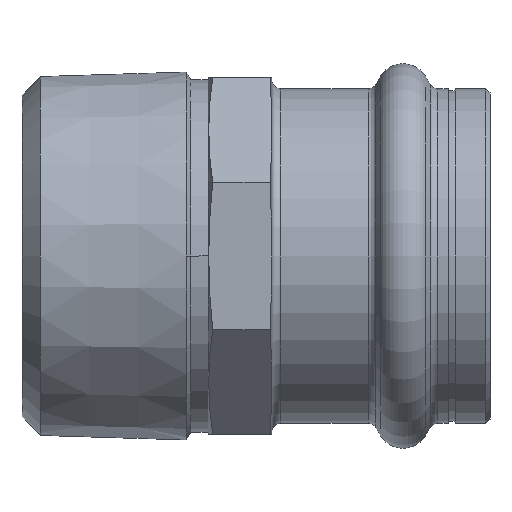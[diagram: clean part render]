
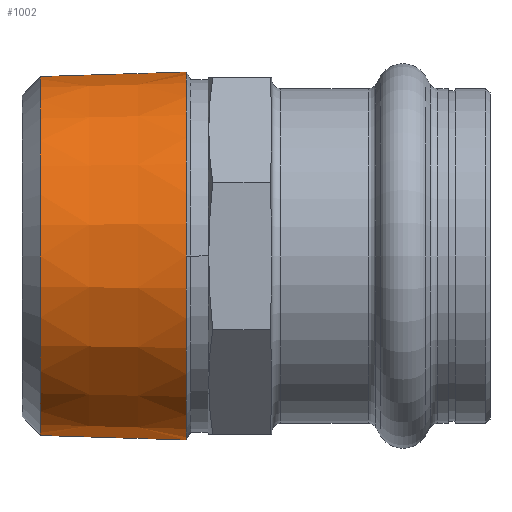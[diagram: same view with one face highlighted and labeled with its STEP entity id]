
A CAD part, left-side view. The second image highlights one B-rep face of the part: STEP entity #1002.
In plain terms, the highlighted conical face has half-angle 1.78 degrees and reference radius 21.225 mm.
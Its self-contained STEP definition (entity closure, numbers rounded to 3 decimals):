
#30 = CIRCLE ( 'NONE', #1326, 20.626 ) ;
#108 = CIRCLE ( 'NONE', #1827, 21.147 ) ;
#238 = EDGE_CURVE ( 'NONE', #1780, #1606, #716, .T. ) ;
#260 = AXIS2_PLACEMENT_3D ( 'NONE', #1369, #1372, #1349 ) ;
#323 = VECTOR ( 'NONE', #1933, 1000. ) ;
#363 = VERTEX_POINT ( 'NONE', #1098 ) ;
#393 = EDGE_CURVE ( 'NONE', #1587, #363, #108, .T. ) ;
#417 = FACE_OUTER_BOUND ( 'NONE', #1016, .T. ) ;
#418 = EDGE_CURVE ( 'NONE', #363, #1606, #1671, .T. ) ;
#435 = VECTOR ( 'NONE', #757, 1000. ) ;
#631 = DIRECTION ( 'NONE',  ( 0., 0., -1. ) ) ;
#662 = DIRECTION ( 'NONE',  ( 0., -1., 0. ) ) ;
#676 = AXIS2_PLACEMENT_3D ( 'NONE', #1483, #1578, #1635 ) ;
#684 = ORIENTED_EDGE ( 'NONE', *, *, #1773, .F. ) ;
#716 = LINE ( 'NONE', #1138, #323 ) ;
#724 = CARTESIAN_POINT ( 'NONE',  ( 0., 51.674, 0. ) ) ;
#757 = DIRECTION ( 'NONE',  ( 0., -1., 0.031 ) ) ;
#763 = VERTEX_POINT ( 'NONE', #1682 ) ;
#1002 = ADVANCED_FACE ( 'NONE', ( #417 ), #1929, .T. ) ;
#1016 = EDGE_LOOP ( 'NONE', ( #684, #1581, #1807, #1235, #1487 ) ) ;
#1098 = CARTESIAN_POINT ( 'NONE',  ( -21.147, 34.918, 0. ) ) ;
#1101 = EDGE_CURVE ( 'NONE', #763, #1780, #30, .T. ) ;
#1138 = CARTESIAN_POINT ( 'NONE',  ( 0., 32.4, -21.225 ) ) ;
#1235 = ORIENTED_EDGE ( 'NONE', *, *, #418, .F. ) ;
#1272 = LINE ( 'NONE', #1303, #435 ) ;
#1303 = CARTESIAN_POINT ( 'NONE',  ( 0., 32.4, 21.225 ) ) ;
#1326 = AXIS2_PLACEMENT_3D ( 'NONE', #724, #662, #631 ) ;
#1349 = DIRECTION ( 'NONE',  ( -1., 0., 0. ) ) ;
#1369 = CARTESIAN_POINT ( 'NONE',  ( 0., 34.918, 0. ) ) ;
#1372 = DIRECTION ( 'NONE',  ( 0., -1., 0. ) ) ;
#1408 = CARTESIAN_POINT ( 'NONE',  ( 0., 51.674, -20.626 ) ) ;
#1483 = CARTESIAN_POINT ( 'NONE',  ( 0., 32.4, 0. ) ) ;
#1487 = ORIENTED_EDGE ( 'NONE', *, *, #393, .F. ) ;
#1578 = DIRECTION ( 'NONE',  ( 0., -1., 0. ) ) ;
#1581 = ORIENTED_EDGE ( 'NONE', *, *, #1101, .T. ) ;
#1587 = VERTEX_POINT ( 'NONE', #1709 ) ;
#1606 = VERTEX_POINT ( 'NONE', #1717 ) ;
#1625 = DIRECTION ( 'NONE',  ( 0., -1., 0. ) ) ;
#1635 = DIRECTION ( 'NONE',  ( 0., 0., -1. ) ) ;
#1671 = CIRCLE ( 'NONE', #260, 21.147 ) ;
#1682 = CARTESIAN_POINT ( 'NONE',  ( 0., 51.674, 20.626 ) ) ;
#1709 = CARTESIAN_POINT ( 'NONE',  ( 0., 34.918, 21.147 ) ) ;
#1717 = CARTESIAN_POINT ( 'NONE',  ( 0., 34.918, -21.147 ) ) ;
#1773 = EDGE_CURVE ( 'NONE', #763, #1587, #1272, .T. ) ;
#1780 = VERTEX_POINT ( 'NONE', #1408 ) ;
#1802 = CARTESIAN_POINT ( 'NONE',  ( 0., 34.918, 0. ) ) ;
#1807 = ORIENTED_EDGE ( 'NONE', *, *, #238, .T. ) ;
#1827 = AXIS2_PLACEMENT_3D ( 'NONE', #1802, #1625, #1832 ) ;
#1832 = DIRECTION ( 'NONE',  ( -1., 0., 0. ) ) ;
#1929 = CONICAL_SURFACE ( 'NONE', #676, 21.225, 0.031 ) ;
#1933 = DIRECTION ( 'NONE',  ( 0., -1., -0.031 ) ) ;
